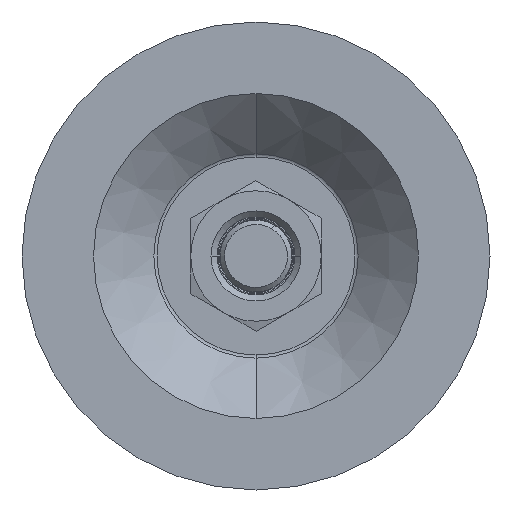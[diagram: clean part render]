
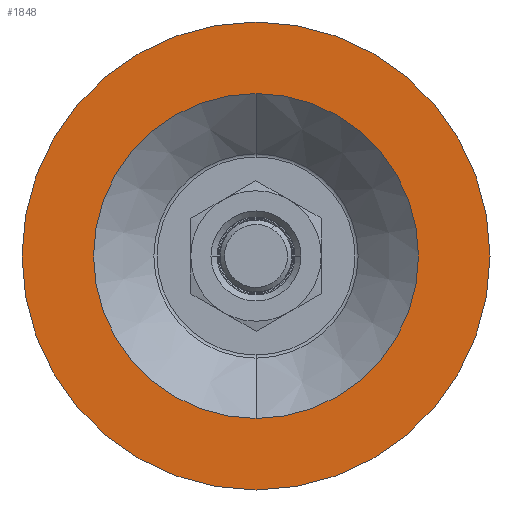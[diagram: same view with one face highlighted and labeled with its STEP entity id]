
A CAD part, front view. The second image highlights one B-rep face of the part: STEP entity #1848.
In plain terms, the highlighted planar face has unit normal (0, -1, 0).
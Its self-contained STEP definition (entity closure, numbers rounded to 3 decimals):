
#55 = ORIENTED_EDGE ( 'NONE', *, *, #105, .T. ) ;
#105 = EDGE_CURVE ( 'NONE', #8186, #1702, #8169, .T. ) ;
#152 = PLANE ( 'NONE',  #6599 ) ;
#202 = DIRECTION ( 'NONE',  ( 0., -1., 0. ) ) ;
#276 = DIRECTION ( 'NONE',  ( 0., 0., -1. ) ) ;
#621 = AXIS2_PLACEMENT_3D ( 'NONE', #4824, #1977, #8520 ) ;
#847 = FACE_BOUND ( 'NONE', #3574, .T. ) ;
#1540 = ORIENTED_EDGE ( 'NONE', *, *, #9091, .F. ) ;
#1653 = DIRECTION ( 'NONE',  ( 0., 0., -1. ) ) ;
#1702 = VERTEX_POINT ( 'NONE', #8081 ) ;
#1761 = AXIS2_PLACEMENT_3D ( 'NONE', #6428, #8602, #2877 ) ;
#1848 = ADVANCED_FACE ( 'NONE', ( #3895, #847 ), #152, .T. ) ;
#1977 = DIRECTION ( 'NONE',  ( 0., -1., 0. ) ) ;
#2877 = DIRECTION ( 'NONE',  ( 0., 0., -1. ) ) ;
#3160 = CARTESIAN_POINT ( 'NONE',  ( 0., -2.6, -52. ) ) ;
#3197 = CARTESIAN_POINT ( 'NONE',  ( 0., -2.6, 0. ) ) ;
#3352 = EDGE_LOOP ( 'NONE', ( #55, #6890 ) ) ;
#3574 = EDGE_LOOP ( 'NONE', ( #3664, #1540 ) ) ;
#3664 = ORIENTED_EDGE ( 'NONE', *, *, #5793, .F. ) ;
#3746 = CIRCLE ( 'NONE', #1761, 52. ) ;
#3895 = FACE_OUTER_BOUND ( 'NONE', #3352, .T. ) ;
#4070 = CIRCLE ( 'NONE', #4746, 36.1 ) ;
#4376 = DIRECTION ( 'NONE',  ( 0., -1., 0. ) ) ;
#4446 = DIRECTION ( 'NONE',  ( 0., 0., -1. ) ) ;
#4525 = CARTESIAN_POINT ( 'NONE',  ( 0., -2.6, 0. ) ) ;
#4746 = AXIS2_PLACEMENT_3D ( 'NONE', #3197, #8289, #276 ) ;
#4824 = CARTESIAN_POINT ( 'NONE',  ( 0., -2.6, 0. ) ) ;
#5793 = EDGE_CURVE ( 'NONE', #8164, #6863, #4070, .T. ) ;
#6428 = CARTESIAN_POINT ( 'NONE',  ( 0., -2.6, 0. ) ) ;
#6599 = AXIS2_PLACEMENT_3D ( 'NONE', #7407, #4376, #4446 ) ;
#6814 = CARTESIAN_POINT ( 'NONE',  ( 0., -2.6, -36.1 ) ) ;
#6863 = VERTEX_POINT ( 'NONE', #7104 ) ;
#6890 = ORIENTED_EDGE ( 'NONE', *, *, #8665, .T. ) ;
#6902 = AXIS2_PLACEMENT_3D ( 'NONE', #4525, #202, #1653 ) ;
#6911 = CIRCLE ( 'NONE', #6902, 36.1 ) ;
#7104 = CARTESIAN_POINT ( 'NONE',  ( 0., -2.6, 36.1 ) ) ;
#7407 = CARTESIAN_POINT ( 'NONE',  ( 0., -2.6, -52. ) ) ;
#8081 = CARTESIAN_POINT ( 'NONE',  ( 0., -2.6, 52. ) ) ;
#8164 = VERTEX_POINT ( 'NONE', #6814 ) ;
#8169 = CIRCLE ( 'NONE', #621, 52. ) ;
#8186 = VERTEX_POINT ( 'NONE', #3160 ) ;
#8289 = DIRECTION ( 'NONE',  ( 0., -1., 0. ) ) ;
#8520 = DIRECTION ( 'NONE',  ( 0., 0., -1. ) ) ;
#8602 = DIRECTION ( 'NONE',  ( 0., -1., 0. ) ) ;
#8665 = EDGE_CURVE ( 'NONE', #1702, #8186, #3746, .T. ) ;
#9091 = EDGE_CURVE ( 'NONE', #6863, #8164, #6911, .T. ) ;
